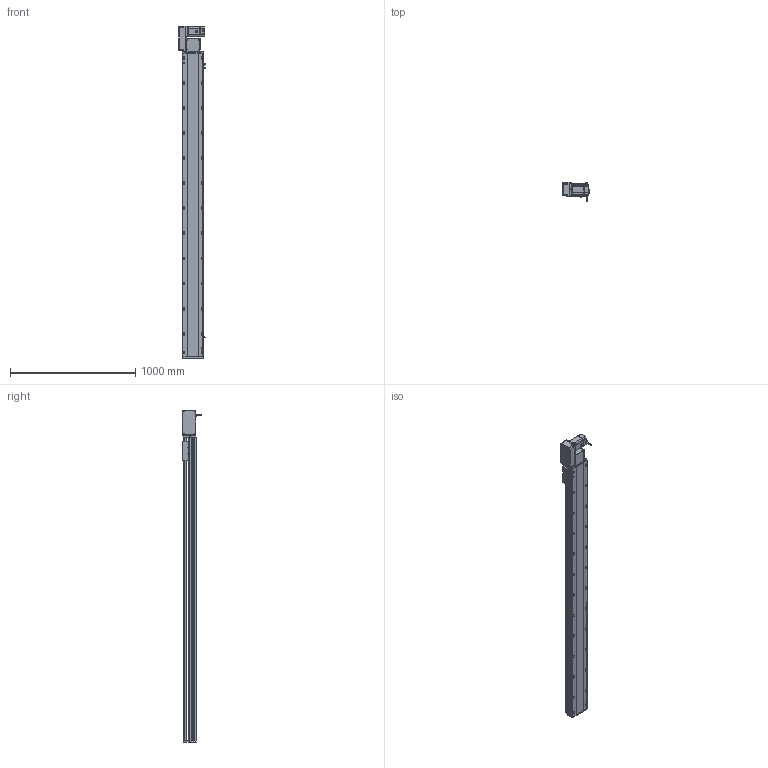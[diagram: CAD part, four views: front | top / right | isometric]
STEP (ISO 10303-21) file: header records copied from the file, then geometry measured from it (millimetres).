
FILE_DESCRIPTION (( 'STEP AP214' ), '1' );
FILE_NAME ('RTB17S-XX-2150-L-M75-C4.STEP', '2025-12-12T00:19:49', ( '' ), ( '' ), 'SwSTEP 2.0', 'SolidWorks 2018', '' );
FILE_SCHEMA (( 'AUTOMOTIVE_DESIGN' ));
Length unit declared in the file: millimetre
Products named in the file (15): RTB17S-L-004-賑釱^RTB17S-賑釱_RTB17S-XX-XX-L-M75-C4; RTB22S-GY-005P^RTB17S-L-々湍釱蚾饜-750W_RTB17S-XX-XX-L-M75-C4; RTH13-BL-012覜茼え俋离^RTB17S-賑釱_RTB17S-XX-XX-L-M75-C4; RTB17-R-011菁釱^RTB17S-XX-XX-L-M75-C4; RMP17S-L-014-T20-P75--々湍釱^RTB17S-L-々湍釱蚾饜-750W_RTB17S-XX-XX-L-M75-C4; 750W萇儂^RTB17S-XX-XX-L-M75-C4; RTB17S-XX-2150-L-M75-C4; RTB17S-L-々湍釱蚾饜-750W^RTB17S-XX-XX-L-M75-C4; RTB22S-GY-018P^RTB17S-L-々湍釱蚾饜-750W_RTB17S-XX-XX-L-M75-C4; RTB17S-賑釱^RTB17S-XX-XX-L-M75-C4; RTB17S-L-001-耜醱啣^RTB17S-XX-XX-L-M75-C4; EE672^RTB17S-XX-XX-L-M75-C4; RTB17S-L-007奻裔^RTB17S-XX-XX-L-M75-C4; RTB22S-GY-008-M75--萇儂啣^RTB17S-L-々湍釱蚾饜-750W_RTB17S-XX-XX-L-M75-C4; RTB22S-GY-017P^RTB17S-L-々湍釱蚾饜-750W_RTB17S-XX-XX-L-M75-C4
Assembly tree (17 placements, depth 3):
  RTB17S-XX-2150-L-M75-C4
    RTB17-R-011菁釱^RTB17S-XX-XX-L-M75-C4
    EE672^RTB17S-XX-XX-L-M75-C4  x3
    RTB17S-L-001-耜醱啣^RTB17S-XX-XX-L-M75-C4
    RTB17S-賑釱^RTB17S-XX-XX-L-M75-C4
      RTB17S-L-004-賑釱^RTB17S-賑釱_RTB17S-XX-XX-L-M75-C4
      RTH13-BL-012覜茼え俋离^RTB17S-賑釱_RTB17S-XX-XX-L-M75-C4
    RTB17S-L-007奻裔^RTB17S-XX-XX-L-M75-C4
    750W萇儂^RTB17S-XX-XX-L-M75-C4
    RTB17S-L-々湍釱蚾饜-750W^RTB17S-XX-XX-L-M75-C4
      RMP17S-L-014-T20-P75--々湍釱^RTB17S-L-々湍釱蚾饜-750W_RTB17S-XX-XX-L-M75-C4
      RTB22S-GY-005P^RTB17S-L-々湍釱蚾饜-750W_RTB17S-XX-XX-L-M75-C4
      RTB22S-GY-017P^RTB17S-L-々湍釱蚾饜-750W_RTB17S-XX-XX-L-M75-C4  x2
      RTB22S-GY-008-M75--萇儂啣^RTB17S-L-々湍釱蚾饜-750W_RTB17S-XX-XX-L-M75-C4
      RTB22S-GY-018P^RTB17S-L-々湍釱蚾饜-750W_RTB17S-XX-XX-L-M75-C4
Bounding box: 210.4 x 152.7 x 2649 mm (x, y, z)
Volume: 19389971.8 mm3; surface area: 3483497.7 mm2
Topology: 17 solids, 17 shells, 2185 faces, 6106 edges, 3950 vertices
Faces by surface type: plane 982, cylinder 787, bspline 294, cone 110, sphere 8, torus 4
Entity records: 62710 total; most frequent: CARTESIAN_POINT 18570, ORIENTED_EDGE 9056, DIRECTION 8402, EDGE_CURVE 4528, AXIS2_PLACEMENT_3D 2970, VERTEX_POINT 2954, LINE 2462, VECTOR 2462
